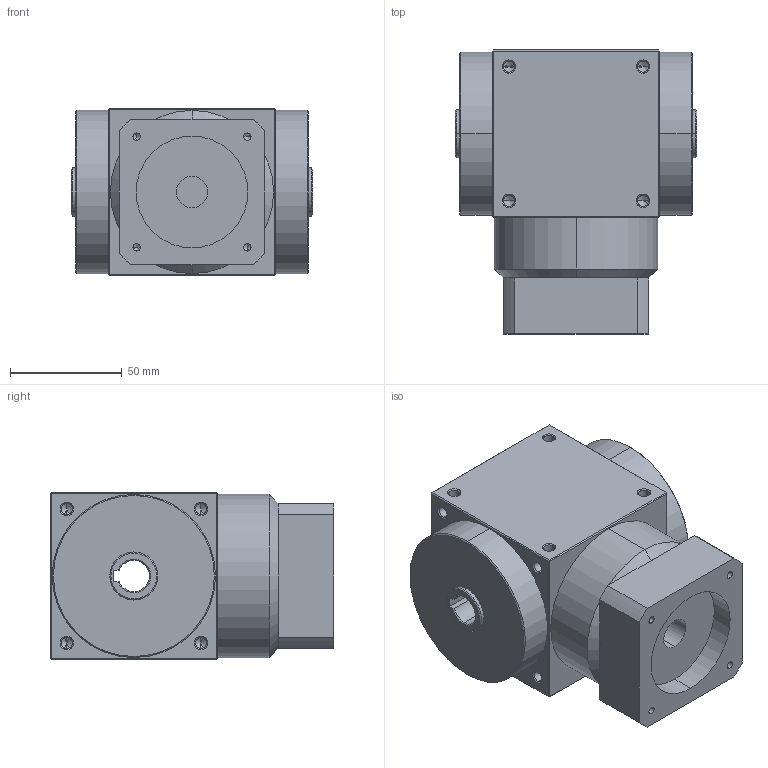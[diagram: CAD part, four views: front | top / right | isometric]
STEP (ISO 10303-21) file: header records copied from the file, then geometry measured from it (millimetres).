
FILE_DESCRIPTION (( 'STEP AP214' ), '1' );
FILE_NAME ('AT075-FH-001--14-50-70-M4.STEP', '2020-08-21T12:02:12', ( 'User' ), ( 'Far123' ), 'SwSTEP 2.0', 'SolidWorks 2015', '' );
FILE_SCHEMA (( 'AUTOMOTIVE_DESIGN' ));
Length unit declared in the file: millimetre
Products named in the file (1): AT075-FH-001--14-50-70-M4
Bounding box: 108 x 127 x 75 mm (x, y, z)
Volume: 713213.4 mm3; surface area: 65302.1 mm2
Topology: 1 solids, 1 shells, 257 faces, 644 edges, 348 vertices
Faces by surface type: cylinder 109, cone 104, plane 44
Entity records: 8178 total; most frequent: CARTESIAN_POINT 1550, DIRECTION 1192, ORIENTED_EDGE 1192, EDGE_CURVE 596, AXIS2_PLACEMENT_3D 454, VERTEX_POINT 348, EDGE_LOOP 290, VECTOR 284
